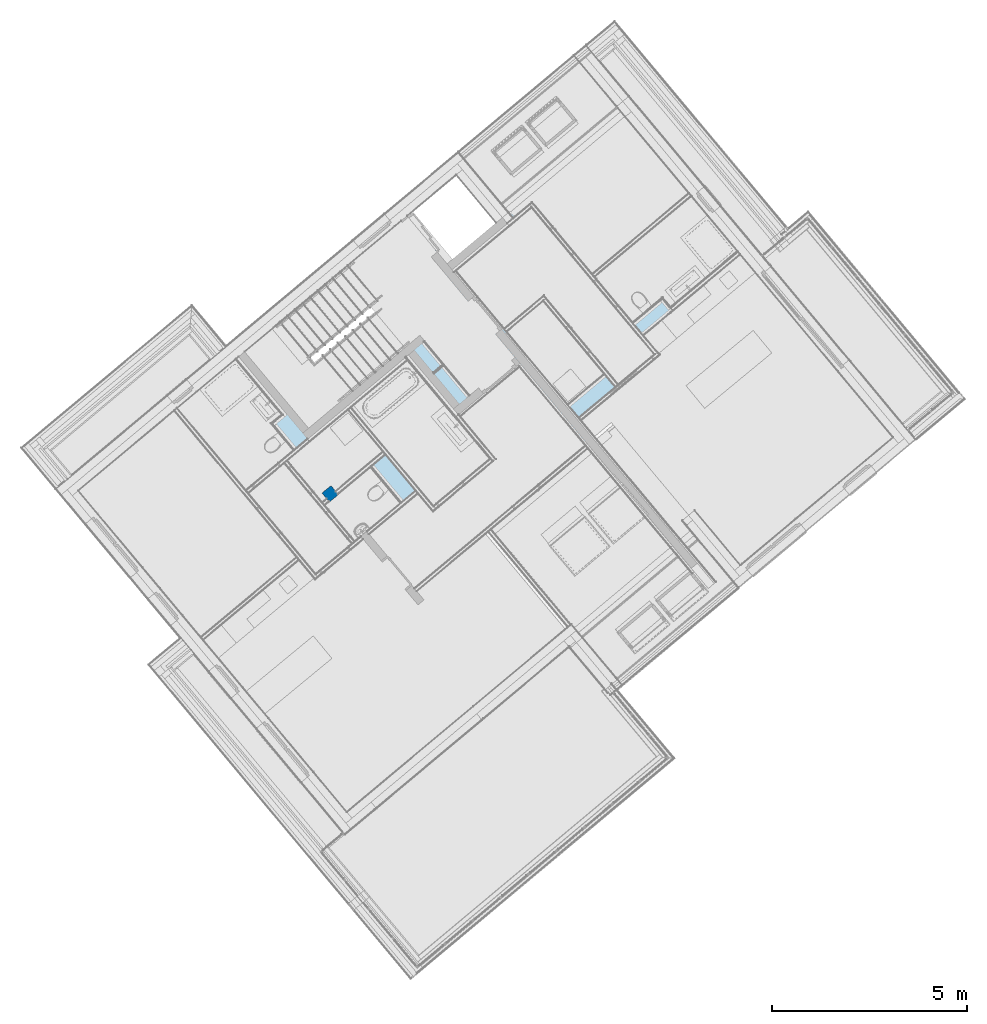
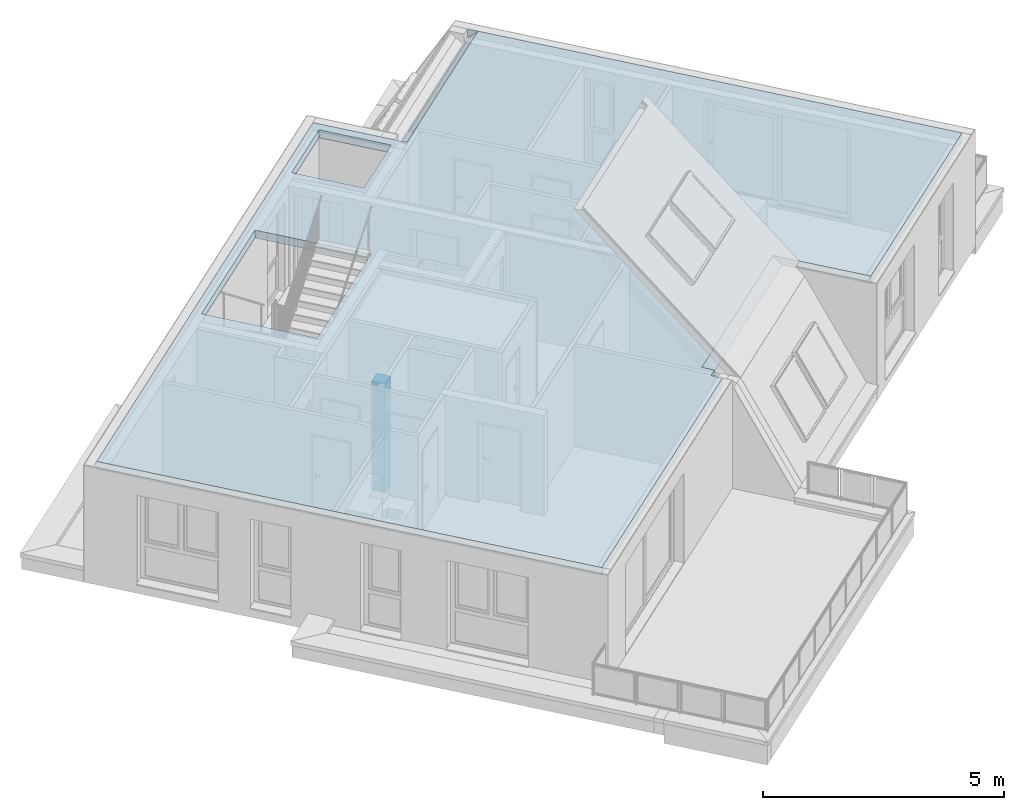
# One storey, part 7 of 61: 1 column, 1 slab.
"""IFC4 building model written with IfcOpenShell, lengths in metres."""

from ifc_helpers import new_model, entity, si_unit, converted_unit, derived_unit, direction, frame, origin_with_axes, place, context, subcontext, project, spatial, polygons, material, type_object, element, save


model = new_model("IFC4")

# Units and contexts
model_context = context("Model", 3, precision=1e-05, world=origin_with_axes(), true_north=direction((0.0, 1.0)))
body_context = subcontext(model_context, "Body", "Model", "MODEL_VIEW")
ifc_project = project(units=[si_unit("LENGTHUNIT", "METRE"), si_unit("AREAUNIT", "SQUARE_METRE"), si_unit("VOLUMEUNIT", "CUBIC_METRE"), converted_unit("PLANEANGLEUNIT", "DEGREE", entity("IfcPlaneAngleMeasure", 0.0174532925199), si_unit("PLANEANGLEUNIT", "RADIAN"), dimensions=[0, 0, 0, 0, 0, 0, 0]), converted_unit("TIMEUNIT", "Year", entity("IfcTimeMeasure", 31556926.0), si_unit("TIMEUNIT", "SECOND"), dimensions=[0, 0, 1, 0, 0, 0, 0]), si_unit("MASSUNIT", "GRAM", prefix="KILO"), si_unit("THERMODYNAMICTEMPERATUREUNIT", "DEGREE_CELSIUS"), si_unit("LUMINOUSINTENSITYUNIT", "LUMEN"), si_unit("ENERGYUNIT", "JOULE", prefix="MEGA"), derived_unit("THERMALCONDUCTANCEUNIT", [(si_unit("POWERUNIT", "WATT"), 1), (si_unit("LENGTHUNIT", "METRE"), -1), (si_unit("THERMODYNAMICTEMPERATUREUNIT", "KELVIN"), -1)]), derived_unit("SPECIFICHEATCAPACITYUNIT", [(si_unit("ENERGYUNIT", "JOULE"), 1), (si_unit("MASSUNIT", "GRAM", prefix="KILO"), -1), (si_unit("THERMODYNAMICTEMPERATUREUNIT", "KELVIN"), -1)]), derived_unit("MASSDENSITYUNIT", [(si_unit("MASSUNIT", "GRAM", prefix="KILO"), 1), (si_unit("VOLUMEUNIT", "CUBIC_METRE"), -1)])], contexts=[model_context])

# Site, building, storey
site_placement = place(None, frame((-0.00153261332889, -0.00661245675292, 0.0), z_axis=(0.0, 0.0, 1.0), x_axis=(1.0, 0.0, 0.0)))
site = spatial("IfcSite", under=ifc_project, at=site_placement, Name="Gelände", CompositionType="ELEMENT")
building_placement = place(site_placement, origin_with_axes())
building = spatial("IfcBuilding", under=site, at=building_placement, Name="Gebäude", CompositionType="ELEMENT")
storey_placement = place(building_placement, frame((0.0, 0.0, 5.7), z_axis=(0.0, 0.0, 1.0), x_axis=(1.0, 0.0, 0.0)))
storey = spatial("IfcBuildingStorey", under=building, at=storey_placement, Name="DG1", CompositionType="ELEMENT", Elevation=5.7)

# Column
ifc_material_1 = material(Name="Stahlbeton")
column_type = type_object("IfcColumnType", Name="Stahlbeton 300 x 300", PredefinedType="NOTDEFINED")
column_placement = place(storey_placement, frame((-1.63508592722, 18.8845477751, 0.0), z_axis=(0.0, 0.0, 1.0), x_axis=(0.776862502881, 0.62967027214, 0.0)))
element("IfcColumn", 1, at=column_placement, inside=storey, type_object=column_type, material=ifc_material_1, Name="Stütze-002", PredefinedType="NOTDEFINED", context=body_context, shape_type="Tessellation", body=[
    polygons([(0.15, -0.15, 2.76), (-0.15, -0.15, 2.76), (-0.15, -0.15, 0.0), (0.15, -0.15, 0.0), (0.15, 0.15, 2.76), (-0.15, 0.15, 2.76), (-0.15, 0.15, 0.0), (0.15, 0.15, 0.0)], [[[1, 2, 3, 4]], [[5, 6, 2, 1]], [[2, 6, 7, 3]], [[8, 4, 3, 7]], [[5, 1, 4, 8]], [[6, 5, 8, 7]]], closed=True),
])

# Space
space_placement = place(storey_placement, frame((-2.22491882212, 20.296285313, 0.0), z_axis=(0.0, 0.0, 1.0), x_axis=(-0.641209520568, 0.767365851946, 0.0)))
space = spatial("IfcSpace", under=storey, at=space_placement, CompositionType="ELEMENT", PredefinedType="NOTDEFINED")

# Slab
ifc_material_2 = material(Name="Stahlbeton Decke")
slab_type = type_object("IfcSlabType", Name="Stahlbeton Decke 200", PredefinedType="NOTDEFINED")
slab_placement = place(space_placement, frame((2.94537086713, 5.56020574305, 2.96), z_axis=(0.0, 0.0, 1.0), x_axis=(-0.641209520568, -0.767365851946, 0.0)))
element("IfcSlab", 2, at=slab_placement, inside=space, type_object=slab_type, material=ifc_material_2, Name="Decke-005", PredefinedType="NOTDEFINED", context=body_context, shape_type="Tessellation", body=[
    polygons([(12.6919336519, -3.4805250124, -0.2), (12.7437763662, -3.54252169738, -0.2), (12.578281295, -3.68099220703, -0.2), (12.7419171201, -3.87656397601, -0.2), (7.14931314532, -8.5559222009, -0.2), (0.0, 0.0, -0.2), (10.0081172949, 8.36276452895, -0.2), (11.1344170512, 7.01486810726, -0.2), (11.1342858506, 7.01475837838, -0.2), (11.2091774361, 6.92509175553, -0.2), (14.4938899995, 9.66924113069, -0.2), (14.4705561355, 9.69716889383, -0.2), (14.4706942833, 9.69728432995, -0.2), (21.4752353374, 1.314617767, -0.2), (17.2472915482, -2.22292281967, -0.2), (16.1721516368, -0.937953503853, -0.2), (16.1760721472, -0.934673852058, -0.2), (15.9946207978, -0.717705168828, -0.2), (7.78853591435, 4.68298390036, -0.2), (7.02200312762, 5.60042547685, -0.2), (4.55163313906, 3.53618876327, -0.2), (6.19016126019, 1.57528442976, -0.2), (8.66053143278, 3.63952128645, -0.2), (11.0057010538, 6.84920297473, -0.2), (9.9822563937, 8.07400775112, -0.2), (8.72026993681, 7.01949414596, -0.2), (9.74301895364, 5.79407105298, -0.2), (12.5636646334, -3.32707448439, 0.0), (12.7438051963, -3.54249757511, 0.0), (12.578281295, -3.68099220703, 0.0), (12.7419171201, -3.87656397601, 0.0), (7.14931314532, -8.5559222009, 0.0), (0.0, 0.0, 0.0), (10.0081172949, 8.36276452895, 0.0), (11.1562089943, 6.98878865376, 0.0), (11.0741848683, 7.08695081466, -0.127920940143), (11.0740628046, 7.08684879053, -0.127920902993), (11.1560531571, 6.98865846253, 0.0), (11.3373665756, 6.77157450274, 0.0), (14.622130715, 9.515766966, 0.0), (14.4705631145, 9.69717472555, 0.0), (14.4706942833, 9.69728432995, 0.0), (21.4752353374, 1.314617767, 0.0), (17.2472915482, -2.22292281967, 0.0), (16.0438098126, -0.784563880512, 0.0), (16.0477878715, -0.781236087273, 0.0), (15.8663365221, -0.56426740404, 0.0), (7.78853591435, 4.68298390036, 0.0), (7.02200312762, 5.60042547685, 0.0), (4.55163313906, 3.53618876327, 0.0), (6.19016126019, 1.57528442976, 0.0), (8.66053143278, 3.63952128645, 0.0), (11.0057010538, 6.84920297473, 0.0), (9.9822563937, 8.07400775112, 0.0), (8.72026993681, 7.01949414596, 0.0), (9.74301895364, 5.79407105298, 0.0)], [[[1, 2, 3, 4, 5, 6, 7, 8, 9, 10, 11, 12, 13, 14, 15, 16, 17, 18], [19, 20, 21, 22, 23], [24, 25, 26, 27]], [[28, 29, 2, 1]], [[2, 29, 30, 3]], [[3, 30, 31, 4]], [[4, 31, 32, 5]], [[5, 32, 33, 6]], [[6, 33, 34, 7]], [[35, 36, 8, 7, 34]], [[37, 9, 8, 36]], [[37, 38, 39, 10, 9]], [[10, 39, 40, 11]], [[11, 40, 41, 12]], [[13, 12, 41, 42]], [[13, 42, 43, 14]], [[14, 43, 44, 15]], [[45, 16, 15, 44]], [[17, 16, 45, 46]], [[18, 17, 46, 47]], [[1, 18, 47, 28]], [[19, 48, 49, 20]], [[20, 49, 50, 21]], [[21, 50, 51, 22]], [[22, 51, 52, 23]], [[23, 52, 48, 19]], [[24, 53, 54, 25]], [[25, 54, 55, 26]], [[26, 55, 56, 27]], [[27, 56, 53, 24]], [[46, 45, 44, 43, 42, 41, 40, 39, 38, 35, 34, 33, 32, 31, 30, 29, 28, 47], [49, 48, 52, 51, 50], [55, 54, 53, 56]], [[37, 36, 35, 38]]], closed=True),
])

save(model, "model.ifc")
